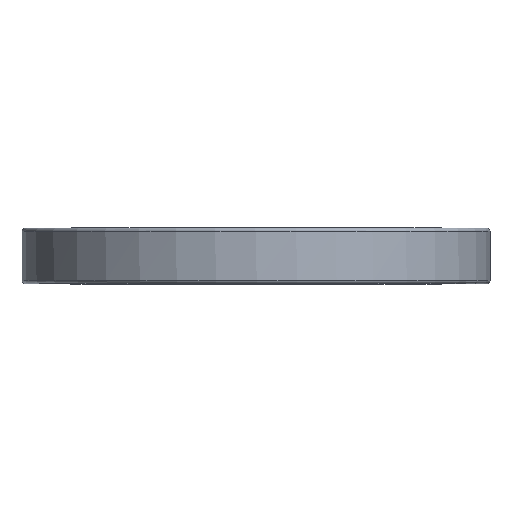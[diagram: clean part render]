
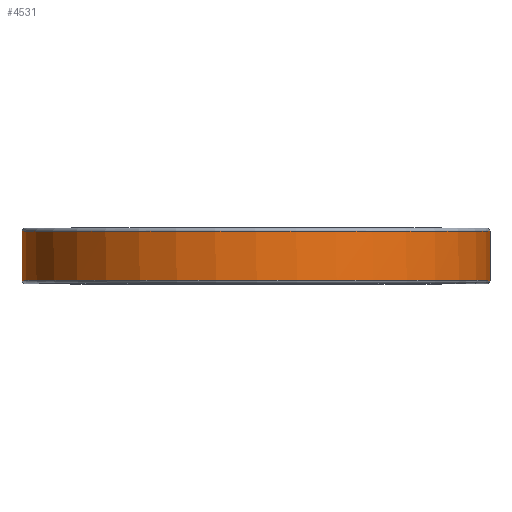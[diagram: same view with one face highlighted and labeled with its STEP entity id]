
A CAD part, top view. The second image highlights one B-rep face of the part: STEP entity #4531.
In plain terms, the highlighted cylindrical face has radius 147.5 mm (diameter 295 mm), a partial arc.
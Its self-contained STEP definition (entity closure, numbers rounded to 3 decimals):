
#1863=EDGE_CURVE('',#2151,#2185,#5056,.T.);
#2151=VERTEX_POINT('',#5369);
#2185=VERTEX_POINT('',#5406);
#2751=VERTEX_POINT('',#6064);
#3097=VERTEX_POINT('',#6450);
#3151=EDGE_CURVE('',#2751,#3803,#6513,.T.);
#3457=VERTEX_POINT('',#6857);
#3509=EDGE_CURVE('',#2185,#2751,#6915,.T.);
#3803=VERTEX_POINT('',#7248);
#4133=EDGE_CURVE('',#3097,#2151,#7619,.T.);
#4147=EDGE_CURVE('',#3803,#3457,#7635,.T.);
#4165=EDGE_CURVE('',#3097,#3457,#7654,.T.);
#4531=ADVANCED_FACE('',(#8058),#8059,.T.);
#5056=CIRCLE('',#8693,147.5);
#5369=CARTESIAN_POINT('',(-147.497,2.0,0.914));
#5406=CARTESIAN_POINT('',(-147.5,2.0,0.));
#6064=CARTESIAN_POINT('',(-147.5,33.0,0.));
#6450=CARTESIAN_POINT('',(147.5,2.0,0.));
#6513=CIRCLE('',#10570,147.5);
#6857=CARTESIAN_POINT('',(147.5,33.0,0.));
#6915=LINE('',#11072,#11073);
#7248=CARTESIAN_POINT('',(147.499,33.0,0.644));
#7619=CIRCLE('',#11959,147.5);
#7635=CIRCLE('',#11978,147.5);
#7654=LINE('',#12001,#12002);
#8058=FACE_OUTER_BOUND('',#12521,.T.);
#8059=CYLINDRICAL_SURFACE('',#12522,147.5);
#8693=AXIS2_PLACEMENT_3D('',#13151,#13152,#13153);
#10570=AXIS2_PLACEMENT_3D('',#15019,#15020,#15021);
#11072=CARTESIAN_POINT('',(-147.5,2.0,0.));
#11073=VECTOR('',#15542,31.0);
#11959=AXIS2_PLACEMENT_3D('',#16496,#16497,#16498);
#11978=AXIS2_PLACEMENT_3D('',#16521,#16522,#16523);
#12001=CARTESIAN_POINT('',(147.5,2.0,0.));
#12002=VECTOR('',#16545,31.0);
#12521=EDGE_LOOP('',(#17072,#17073,#17074,#17075,#17076,#17077));
#12522=AXIS2_PLACEMENT_3D('',#17078,#17079,#17080);
#13151=CARTESIAN_POINT('',(0.0,2.0,0.0));
#13152=DIRECTION('',(0.0,-1.0,0.0));
#13153=DIRECTION('',(1.0,0.0,0.0));
#15019=CARTESIAN_POINT('',(0.0,33.0,0.0));
#15020=DIRECTION('',(0.0,1.0,0.0));
#15021=DIRECTION('',(-1.0,0.0,0.0));
#15542=DIRECTION('',(0.0,1.0,0.));
#16496=CARTESIAN_POINT('',(0.0,2.0,0.0));
#16497=DIRECTION('',(0.0,-1.0,0.0));
#16498=DIRECTION('',(1.0,0.0,0.0));
#16521=CARTESIAN_POINT('',(0.0,33.0,0.0));
#16522=DIRECTION('',(0.0,1.0,0.0));
#16523=DIRECTION('',(-1.0,0.0,0.0));
#16545=DIRECTION('',(0.0,1.0,0.));
#17072=ORIENTED_EDGE('',*,*,#3509,.F.);
#17073=ORIENTED_EDGE('',*,*,#1863,.F.);
#17074=ORIENTED_EDGE('',*,*,#4133,.F.);
#17075=ORIENTED_EDGE('',*,*,#4165,.T.);
#17076=ORIENTED_EDGE('',*,*,#4147,.F.);
#17077=ORIENTED_EDGE('',*,*,#3151,.F.);
#17078=CARTESIAN_POINT('',(0.0,0.0,0.0));
#17079=DIRECTION('',(-0.0,1.0,-0.0));
#17080=DIRECTION('',(1.0,0.0,0.0));
